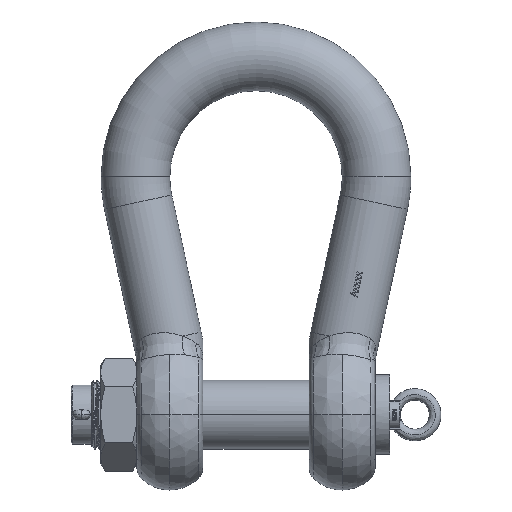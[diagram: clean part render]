
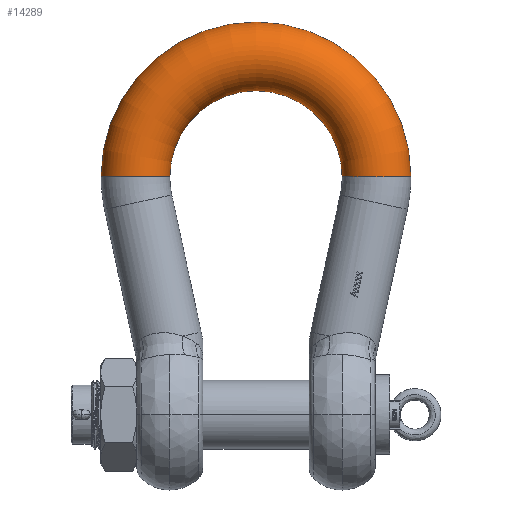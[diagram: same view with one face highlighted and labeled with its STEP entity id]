
A CAD part, front view. The second image highlights one B-rep face of the part: STEP entity #14289.
In plain terms, the highlighted toroidal (fillet/blend) face has major radius 166.5 mm and minor radius 47.495 mm.
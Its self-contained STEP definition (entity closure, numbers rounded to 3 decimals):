
#14241=AXIS2_PLACEMENT_3D('Circle Axis2P3D',#14239,#14240,$) ;
#14248=AXIS2_PLACEMENT_3D('Circle Axis2P3D',#14246,#14247,$) ;
#14276=AXIS2_PLACEMENT_3D('Torus Axis2P3D',#14273,#14274,#14275) ;
#14280=AXIS2_PLACEMENT_3D('Circle Axis2P3D',#14278,#14279,$) ;
#12060=CARTESIAN_POINT('Vertex',(-119.005,328.5,0.)) ;
#12062=CARTESIAN_POINT('Vertex',(-213.995,328.5,0.)) ;
#12066=CARTESIAN_POINT('Control Point',(-213.995,328.5,0.)) ;
#12067=CARTESIAN_POINT('Control Point',(-213.995,328.5,-4.389)) ;
#12068=CARTESIAN_POINT('Control Point',(-213.488,328.5,-8.778)) ;
#12069=CARTESIAN_POINT('Control Point',(-212.474,328.5,-13.089)) ;
#12070=CARTESIAN_POINT('Control Point',(-209.468,328.5,-21.399)) ;
#12071=CARTESIAN_POINT('Control Point',(-204.648,328.5,-28.804)) ;
#12072=CARTESIAN_POINT('Control Point',(-201.818,328.5,-32.211)) ;
#12073=CARTESIAN_POINT('Control Point',(-195.423,328.5,-38.31)) ;
#12074=CARTESIAN_POINT('Control Point',(-187.807,328.5,-42.79)) ;
#12075=CARTESIAN_POINT('Control Point',(-183.755,328.5,-44.578)) ;
#12076=CARTESIAN_POINT('Control Point',(-175.312,328.5,-47.186)) ;
#12077=CARTESIAN_POINT('Control Point',(-166.497,328.5,-47.801)) ;
#12078=CARTESIAN_POINT('Control Point',(-162.073,328.5,-47.595)) ;
#12079=CARTESIAN_POINT('Control Point',(-153.353,328.5,-46.167)) ;
#12080=CARTESIAN_POINT('Control Point',(-145.188,328.5,-42.787)) ;
#12081=CARTESIAN_POINT('Control Point',(-141.32,328.5,-40.631)) ;
#12082=CARTESIAN_POINT('Control Point',(-134.151,328.5,-35.465)) ;
#12083=CARTESIAN_POINT('Control Point',(-128.349,328.5,-28.8)) ;
#12084=CARTESIAN_POINT('Control Point',(-125.847,328.5,-25.145)) ;
#12085=CARTESIAN_POINT('Control Point',(-122.147,328.5,-18.11)) ;
#12086=CARTESIAN_POINT('Control Point',(-119.976,328.5,-10.483)) ;
#12087=CARTESIAN_POINT('Control Point',(-119.329,328.5,-7.015)) ;
#12088=CARTESIAN_POINT('Control Point',(-119.005,328.5,-3.508)) ;
#12089=CARTESIAN_POINT('Control Point',(-119.005,328.5,0.)) ;
#14239=CARTESIAN_POINT('Axis2P3D Location',(0.,328.5,0.)) ;
#14243=CARTESIAN_POINT('Vertex',(213.995,328.5,0.)) ;
#14246=CARTESIAN_POINT('Axis2P3D Location',(0.,328.5,0.)) ;
#14250=CARTESIAN_POINT('Vertex',(119.005,328.5,0.)) ;
#14273=CARTESIAN_POINT('Axis2P3D Location',(0.,328.5,0.)) ;
#14278=CARTESIAN_POINT('Axis2P3D Location',(166.5,328.5,0.)) ;
#14240=DIRECTION('Axis2P3D Direction',(0.,0.,-1.)) ;
#14247=DIRECTION('Axis2P3D Direction',(0.,0.,-1.)) ;
#14274=DIRECTION('Axis2P3D Direction',(0.,0.,-1.)) ;
#14275=DIRECTION('Axis2P3D XDirection',(-1.,0.,0.)) ;
#14279=DIRECTION('Axis2P3D Direction',(0.,1.,0.)) ;
#14284=ORIENTED_EDGE('',*,*,#14252,.T.) ;
#14285=ORIENTED_EDGE('',*,*,#12090,.F.) ;
#14286=ORIENTED_EDGE('',*,*,#14245,.T.) ;
#14287=ORIENTED_EDGE('',*,*,#14282,.F.) ;
#14289=ADVANCED_FACE('',(#14288),#14277,.T.) ;
#12065=B_SPLINE_CURVE_WITH_KNOTS('',5,(#12066,#12067,#12068,#12069,#12070,#12071,#12072,#12073,#12074,#12075,#12076,#12077,#12078,#12079,#12080,#12081,#12082,#12083,#12084,#12085,#12086,#12087,#12088,#12089),.UNSPECIFIED.,.F.,.U.,(6,3,3,3,3,3,3,6),(0.,31.035,62.07,93.106,124.141,155.176,186.211,211.013),.UNSPECIFIED.) ;
#14242=CIRCLE('generated circle',#14241,213.995) ;
#14249=CIRCLE('generated circle',#14248,119.005) ;
#14281=CIRCLE('generated circle',#14280,47.495) ;
#14277=TOROIDAL_SURFACE('homeo Torus',#14276,166.5,47.495) ;
#12090=EDGE_CURVE('',#12063,#12061,#12065,.T.) ;
#14245=EDGE_CURVE('',#12063,#14244,#14242,.T.) ;
#14252=EDGE_CURVE('',#14251,#12061,#14249,.F.) ;
#14282=EDGE_CURVE('',#14251,#14244,#14281,.F.) ;
#14283=EDGE_LOOP('',(#14284,#14285,#14286,#14287)) ;
#14288=FACE_OUTER_BOUND('',#14283,.T.) ;
#12061=VERTEX_POINT('',#12060) ;
#12063=VERTEX_POINT('',#12062) ;
#14244=VERTEX_POINT('',#14243) ;
#14251=VERTEX_POINT('',#14250) ;
